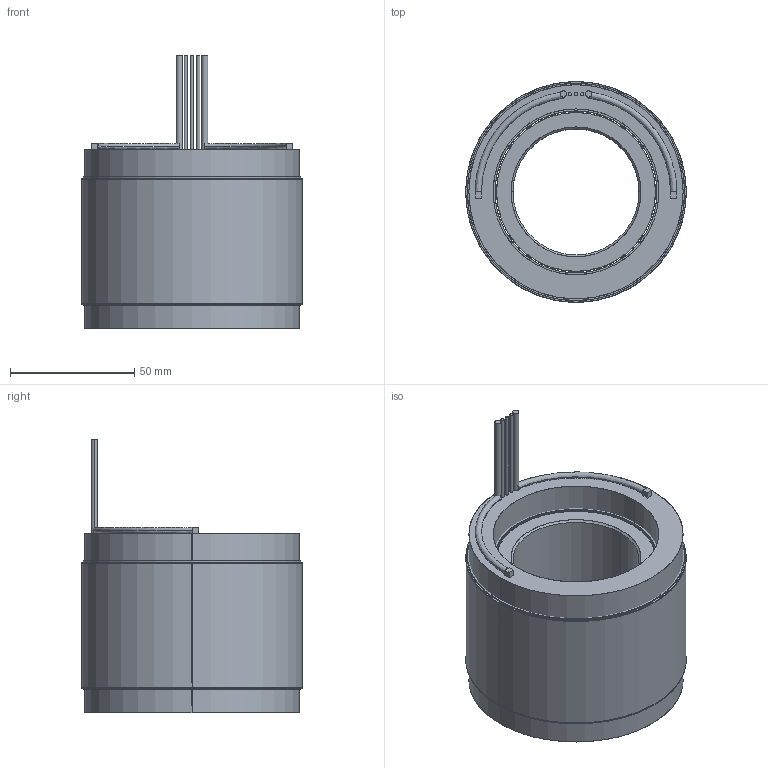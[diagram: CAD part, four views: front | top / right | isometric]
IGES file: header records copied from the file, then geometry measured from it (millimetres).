
Start section: SolidWorks IGES file using analytic representation for surfaces
Global section: file name: \\fs01.aveox.local\user documents\eng\My Documents\STANDARD STATOR ROTOR SETS\Standard rotor and stator set released\NEW DIRECT DRIVE MOTOR\3.5 OD 18S16P\6100378-03.IGS; native system: SolidWorks 2016; preprocessor: SolidWorks 2016; author: eng; date: 200623.085930; units: inch
Bounding box: 88.9 x 88.9 x 110.24 mm (x, y, z)
Surface area: 115041.2 mm2 (no closed solid volume)
Topology: 0 solids, 0 shells, 81 faces, 2376 edges, 2376 vertices
Faces by surface type: revolution 42, bspline 39
